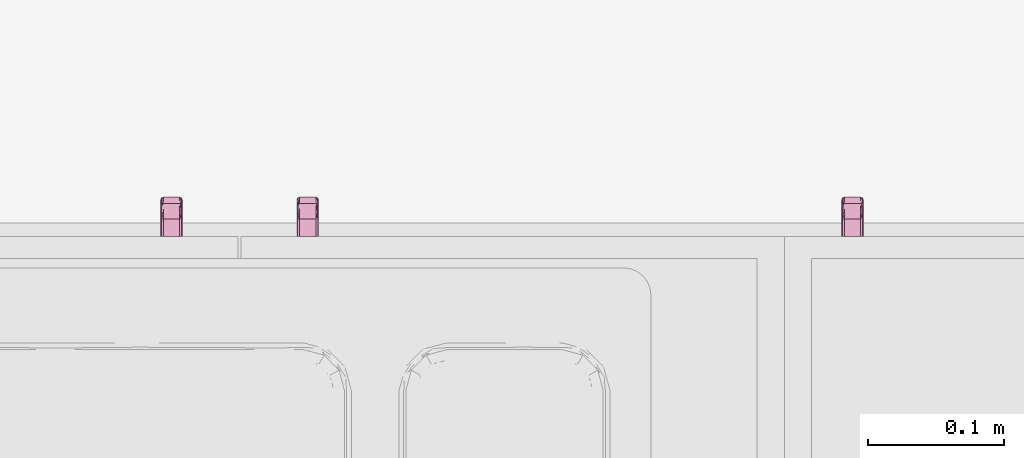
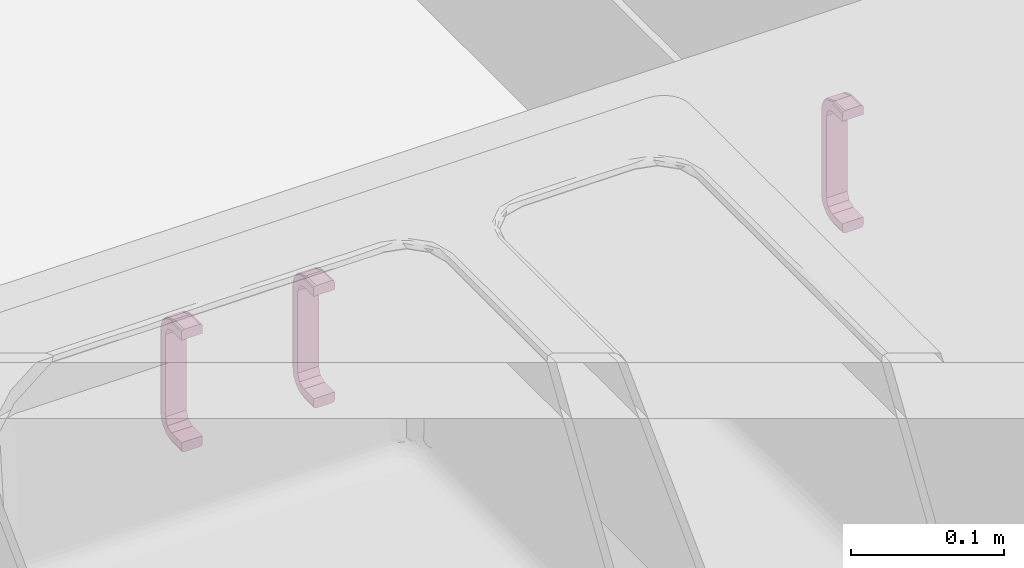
# One storey, part 47 of 65: 3 furnishings.
"""IFC2X3 building model written with IfcOpenShell, lengths in millimetres."""

from ifc_helpers import new_model, entity, si_unit, converted_unit, direction, frame, origin, place, context, subcontext, project, spatial, faceted_brep, source, transform, mapped, material, type_object, type_shapes, element, save


model = new_model("IFC2X3")

# Units and contexts
model_context = context("Model", 3, precision=0.01, world=origin(), true_north=direction((0.0, 1.0)))
body_context = subcontext(model_context, "Body", "Model", "MODEL_VIEW")
ifc_project = project(units=[si_unit("LENGTHUNIT", "METRE", prefix="MILLI"), si_unit("AREAUNIT", "SQUARE_METRE"), si_unit("VOLUMEUNIT", "CUBIC_METRE"), converted_unit("PLANEANGLEUNIT", "DEGREE", entity("IfcPlaneAngleMeasure", 0.017453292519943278), si_unit("PLANEANGLEUNIT", "RADIAN"), dimensions=[0, 0, 0, 0, 0, 0, 0])], contexts=[model_context])

# Site, building, storey, space
site_placement = place(None, origin())
site = spatial("IfcSite", under=ifc_project, at=site_placement, Name="Default", CompositionType="ELEMENT")
building_placement = place(site_placement, origin())
building = spatial("IfcBuilding", under=site, at=building_placement, CompositionType="ELEMENT")
storey_placement = place(building_placement, origin())
storey = spatial("IfcBuildingStorey", under=building, at=storey_placement, Name="Et. 1", CompositionType="ELEMENT", Elevation=0.0)
space_placement = place(storey_placement, origin())
space = spatial("IfcSpace", under=storey, at=space_placement, Name="105", CompositionType="ELEMENT", InteriorOrExteriorSpace="INTERNAL")

# Furnishings
ifc_material = material(Name="Focus - Kjøkken - Håndtak")
furniture_type = type_object("IfcFurnitureType", Name="Focus - Håndtak Skap:Håndtak skap", AssemblyPlace="NOTDEFINED", material=ifc_material)
shared_shape = source(origin(), body_context, "Body", "Brep", [
    faceted_brep([(-6.0, 0.0, 4.021099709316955), (6.0, 0.0, 4.021099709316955), (7.414213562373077, 0.0, 3.435313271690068), (8.0, 0.0, 2.021099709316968), (8.0, 0.0, -4.0210997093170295), (-8.0, 0.0, -4.0210997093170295), (-8.0, 0.0, 2.021099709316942), (-7.414213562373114, 0.0, 3.435313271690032), (-8.0, 0.0, -92.021099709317), (-8.0, 0.0, -85.97890029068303), (8.0, 0.0, -85.97890029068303), (8.0, 0.0, -92.02109970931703), (7.414213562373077, 0.0, -93.43531327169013), (6.0, 0.0, -94.02109970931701), (-6.0, 0.0, -94.02109970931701), (-7.414213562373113, 0.0, -93.43531327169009), (6.0, -13.0, 4.021099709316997), (7.414213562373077, -13.0, 3.4353132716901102), (7.707106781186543, -13.0, 2.728206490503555), (8.0, -13.0, 2.0210997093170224), (8.0, -16.60126528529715, 0.5294067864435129), (8.0, -19.75783998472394, -0.7780892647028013), (8.0, -22.914414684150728, -2.0855853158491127), (8.0, -23.941085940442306, -4.564188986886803), (8.0, -24.967757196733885, -7.042792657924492), (8.0, -25.994428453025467, -9.52139632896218), (8.0, -27.021099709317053, -12.0), (8.0, -27.021099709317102, -24.345039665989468), (8.0, -27.02109970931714, -36.69008005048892), (8.0, -27.021099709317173, -47.017560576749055), (8.0, -27.02109970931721, -57.34504038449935), (8.0, -27.021099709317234, -65.65496033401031), (8.0, -27.021099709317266, -78.0), (8.0, -25.52940678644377, -81.60126528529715), (8.0, -24.221910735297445, -84.75783998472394), (8.0, -22.914414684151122, -87.91441468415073), (8.0, -20.435811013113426, -88.9410859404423), (8.0, -17.95720734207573, -89.96775719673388), (8.0, -15.478603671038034, -90.99442845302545), (8.0, -13.0, -92.02109970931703), (8.0, -13.0, -85.97890029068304), (8.0, -18.64193450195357, -83.64193450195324), (8.0, -20.978900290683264, -78.0), (8.0, -20.978900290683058, -12.0), (8.0, -18.641934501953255, -6.358065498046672), (8.0, -13.0, -4.021099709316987), (-8.0, -13.0, -4.021099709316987), (-8.0, -13.0, -92.02109970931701), (-8.0, -16.6012653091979, -90.52940677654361), (-8.0, -19.7578399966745, -89.22191073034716), (-8.0, -22.914414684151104, -87.91441468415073), (-8.0, -23.941085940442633, -85.435811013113), (-8.0, -24.967757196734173, -82.9572073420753), (-8.0, -25.99442845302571, -80.47860367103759), (-8.0, -27.021099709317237, -78.0), (-8.0, -27.0210997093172, -65.65496055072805), (-8.0, -27.021099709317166, -55.327480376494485), (-8.0, -27.02109970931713, -45.00000020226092), (-8.0, -27.021099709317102, -34.67252002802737), (-8.0, -27.021099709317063, -24.34503985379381), (-8.0, -27.02109970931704, -12.0), (-8.0, -25.52940677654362, -8.398734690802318), (-8.0, -24.221910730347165, -5.242160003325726), (-8.0, -22.914414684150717, -2.0855853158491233), (-8.0, -20.435811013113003, -1.0589140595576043), (-8.0, -17.9572073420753, -0.032242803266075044), (-8.0, -15.478603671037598, 0.9944284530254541), (-8.0, -13.0, 2.0210997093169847), (-8.0, -18.641934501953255, -6.358065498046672), (-8.0, -20.97890029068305, -12.0), (-8.0, -20.978900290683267, -78.0), (-8.0, -18.64193450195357, -83.64193450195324), (-8.0, -13.0, -85.97890029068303), (-7.414213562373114, -13.0, 3.4353132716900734), (-6.523051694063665, -13.0, 3.8044446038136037), (-6.0, -13.0, 4.021099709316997), (7.77682804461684, -22.641402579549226, -0.588486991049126), (7.761199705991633, -19.755916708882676, 1.3575143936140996), (7.832026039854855, -25.954055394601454, -4.794062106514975), (6.0, -24.3286282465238, -0.6713717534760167), (6.7653668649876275, -25.002953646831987, -1.6197407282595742), (7.138822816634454, -22.341444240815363, 0.5752165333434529), (6.0, -20.2025305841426, 1.0377138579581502), (7.148530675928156, -17.923500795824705, 2.864246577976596), (7.108929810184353, -27.65191997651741, -6.400304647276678), (6.0, -26.037713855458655, -4.797469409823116), (6.0, -26.674863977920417, -6.335685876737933), (6.0, -27.52940678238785, -8.398734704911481), (6.0, -25.18317105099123, -2.734420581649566), (7.807346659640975, -27.454202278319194, -8.476170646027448), (7.7836039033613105, -16.529274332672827, 2.502698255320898), (6.0, -16.60126529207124, 2.529406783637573), (7.414213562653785, -25.40873190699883, -2.82000717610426), (6.873580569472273, -26.597477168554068, -3.91370423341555), (6.0, -21.496471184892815, 0.5017461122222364), (6.523051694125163, -28.804444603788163, -12.0), (6.968390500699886, -28.53877057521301, -9.3033965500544), (6.0, -27.847981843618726, -9.167842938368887), (6.0, -29.021099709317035, -12.0), (7.414213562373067, -28.43531327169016, -12.0), (6.0, -18.664314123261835, 1.67486397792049), (6.0, -25.501746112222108, -3.5035288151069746), (-6.0, -16.601265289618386, 2.529406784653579), (-6.0, -15.832157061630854, 2.847981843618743), (-7.78360391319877, -27.50269824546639, -8.470725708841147), (-7.761199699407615, -26.357514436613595, -5.244083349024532), (-7.10892981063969, -18.599695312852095, 2.651919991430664), (-6.0, -20.2025305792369, 1.0377138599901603), (-6.0, -18.664314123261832, 1.67486397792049), (-7.730939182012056, -16.04875454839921, 2.7104148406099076), (-7.744591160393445, -19.340507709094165, 1.5930015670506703), (-6.76536686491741, -21.540484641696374, 1.3746327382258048), (-6.0, -22.265579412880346, 0.183171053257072), (-6.0, -21.496471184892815, 0.5017461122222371), (-7.148530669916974, -27.864246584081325, -7.076499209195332), (-7.138822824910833, -25.57521654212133, -2.6585557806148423), (-6.0, -26.037713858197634, -4.7974694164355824), (-7.414213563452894, -22.17999279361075, 0.4087319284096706), (-7.776828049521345, -24.411513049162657, -2.3585974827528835), (-6.853012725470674, -23.855367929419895, -0.47819170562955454), (-7.414213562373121, -28.43531327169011, -12.0), (-6.0, -27.529406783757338, -8.398734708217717), (-6.0, -25.501746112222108, -3.5035288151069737), (-6.0, -24.3286282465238, -0.6713717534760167), (-7.7071067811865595, -27.728206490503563, -12.0), (-6.96839049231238, -15.696603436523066, 3.5387705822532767), (-6.0, -29.021099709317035, -12.0), (-6.0, -26.67486397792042, -6.33568587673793), (7.414213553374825, -28.435313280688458, -29.508780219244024), (6.0, -29.021099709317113, -34.67252039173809), (7.450985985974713, -28.39755881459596, -41.853819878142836), (7.41421354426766, -28.435313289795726, -61.49999992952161), (6.0, -29.02109970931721, -65.65496032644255), (7.4142135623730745, -28.435313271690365, -78.0), (6.0, -29.02109970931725, -78.0), (6.0, -29.02109970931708, -24.345039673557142), (7.707106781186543, -27.728206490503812, -78.0), (6.0, -29.02109970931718, -55.3274796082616), (6.0, -29.021099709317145, -45.0), (-7.414213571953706, -28.435313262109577, -29.50878047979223), (-6.0, -29.02109970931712, -36.69007988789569), (-6.0, -29.021099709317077, -24.345040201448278), (-7.414213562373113, -28.43531327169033, -78.0), (-7.414213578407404, -28.435313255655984, -61.499999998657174), (-6.0, -29.021099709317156, -47.017559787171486), (-7.376459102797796, -28.472085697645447, -41.85382016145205), (-6.0, -29.021099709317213, -65.6549603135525), (-6.523051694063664, -28.80444460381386, -78.0), (-6.0, -29.02109970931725, -78.0), (-6.0, -29.021099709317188, -57.34504020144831), (7.776828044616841, -24.411513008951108, -87.64140257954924), (7.7611997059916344, -26.357514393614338, -84.7559167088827), (7.8320260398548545, -20.20593789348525, -90.95405539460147), (6.0, -24.328628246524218, -89.32862824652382), (6.0, -22.265579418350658, -90.18317105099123), (6.7653668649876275, -23.38025927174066, -90.002953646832), (6.0, -26.037713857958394, -85.2025305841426), (7.138822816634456, -25.575216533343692, -87.34144424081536), (7.148530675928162, -27.864246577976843, -82.92350079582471), (7.108929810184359, -18.599695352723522, -92.65191997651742), (6.0, -20.202530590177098, -91.03771385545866), (6.0, -18.66431412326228, -91.67486397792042), (6.0, -16.601265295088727, -92.52940678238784), (6.873580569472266, -21.086295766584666, -91.5974771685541), (6.0, -21.49647118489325, -90.50174611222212), (7.8073466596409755, -16.5238293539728, -92.45420227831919), (7.78360390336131, -27.50269825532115, -81.52927433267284), (6.0, -27.529406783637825, -81.60126529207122), (7.414213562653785, -22.179992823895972, -90.40873190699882), (6.0, -25.50174611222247, -86.49647118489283), (6.523051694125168, -13.0, -93.80444460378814), (6.968390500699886, -15.696603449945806, -93.53877057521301), (6.0, -15.832157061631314, -92.84798184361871), (6.0, -13.0, -94.02109970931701), (7.414213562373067, -13.0, -93.43531327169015), (6.0, -26.674863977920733, -83.66431412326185), (-6.0, -27.529406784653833, -81.60126528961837), (-6.0, -27.84798184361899, -80.83215706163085), (-7.7836039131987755, -16.529274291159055, -92.50269824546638), (-7.7611996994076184, -19.755916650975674, -91.3575144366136), (-7.108929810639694, -27.651919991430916, -83.59969531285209), (-6.0, -26.03771385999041, -85.20253057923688), (-6.0, -26.67486397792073, -83.66431412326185), (-7.730939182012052, -27.71041484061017, -81.04875454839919), (-7.74459116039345, -26.593001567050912, -84.34050770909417), (-6.76536686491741, -26.374632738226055, -86.54048464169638), (-6.0, -25.18317105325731, -87.26557941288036), (-6.0, -25.50174611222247, -86.49647118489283), (-7.148530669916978, -17.923500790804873, -92.86424658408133), (-7.138822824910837, -22.341444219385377, -90.57521654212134), (-6.0, -20.20253058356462, -91.03771385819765), (-7.414213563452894, -25.40873192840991, -87.17999279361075), (-7.776828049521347, -22.64140251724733, -89.41151304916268), (-6.853012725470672, -24.52180829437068, -88.85536792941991), (-7.41421356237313, -13.0, -93.43531327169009), (-6.0, -16.601265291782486, -92.52940678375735), (-6.0, -21.49647118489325, -90.50174611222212), (-6.0, -24.328628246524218, -89.32862824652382), (-7.707106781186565, -13.0, -92.72820649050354), (-6.96839049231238, -28.538770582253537, -80.69660343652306), (-6.0, -13.0, -94.02109970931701), (-6.0, -18.66431412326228, -91.67486397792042)], [[[0, 1, 2, 3, 4, 5, 6, 7]], [[8, 9, 10, 11, 12, 13, 14, 15]], [[16, 17, 2, 1]], [[2, 17, 18, 19, 3]], [[4, 3, 19, 20, 21, 22, 23, 24, 25, 26, 27, 28, 29, 30, 31, 32, 33, 34, 35, 36, 37, 38, 39, 11, 10, 40, 41, 42, 43, 44, 45]], [[5, 4, 45, 46]], [[9, 8, 47, 48, 49, 50, 51, 52, 53, 54, 55, 56, 57, 58, 59, 60, 61, 62, 63, 64, 65, 66, 67, 6, 5, 46, 68, 69, 70, 71, 72]], [[67, 73, 7, 6]], [[7, 73, 74, 75, 0]], [[1, 0, 75, 16]], [[76, 21, 77]], [[78, 24, 23]], [[79, 80, 81]], [[82, 81, 83]], [[84, 85, 86, 87]], [[80, 79, 88]], [[89, 24, 78]], [[90, 77, 20]], [[17, 91, 83]], [[92, 93, 84]], [[81, 82, 94, 79]], [[87, 95, 96]], [[77, 83, 81]], [[23, 76, 78]], [[93, 92, 80]], [[22, 76, 23]], [[90, 17, 83]], [[19, 18, 17, 90]], [[95, 87, 97, 98]], [[99, 26, 89]], [[76, 77, 81]], [[20, 19, 90]], [[92, 76, 81]], [[21, 76, 22]], [[21, 20, 77]], [[83, 77, 90]], [[91, 17, 16]], [[83, 91, 100, 82]], [[93, 88, 101, 85]], [[81, 80, 92]], [[88, 93, 80]], [[85, 84, 93]], [[76, 92, 78]], [[92, 84, 78]], [[89, 78, 84]], [[84, 96, 89]], [[89, 26, 25, 24]], [[96, 95, 99]], [[89, 96, 99]], [[87, 96, 84]], [[44, 68, 46, 45]], [[43, 69, 68, 44]], [[74, 102, 103, 75]], [[104, 105, 61]], [[106, 107, 108, 102]], [[109, 110, 106]], [[111, 112, 113, 107]], [[105, 114, 115]], [[115, 114, 116]], [[110, 64, 117]], [[118, 62, 105]], [[106, 110, 117]], [[117, 119, 111]], [[120, 121, 114]], [[115, 116, 122, 123]], [[112, 111, 119]], [[119, 117, 118]], [[63, 118, 64]], [[104, 120, 114]], [[60, 124, 120, 104]], [[109, 125, 73]], [[125, 109, 106]], [[118, 105, 115]], [[61, 60, 104]], [[118, 115, 119]], [[62, 118, 63]], [[62, 61, 105]], [[114, 105, 104]], [[121, 120, 126]], [[114, 121, 127, 116]], [[107, 106, 111]], [[106, 117, 111]], [[115, 123, 119]], [[112, 119, 123]], [[64, 118, 117]], [[125, 74, 73]], [[102, 74, 125]], [[102, 125, 106]], [[73, 67, 109]], [[66, 65, 64, 110]], [[110, 109, 66]], [[109, 67, 66]], [[122, 116, 127, 121, 126, 98, 97, 87, 86, 85, 101, 88, 79, 123]], [[79, 94, 82, 100, 91, 16, 75, 103, 102, 108, 107, 113, 112, 123]], [[128, 28, 27, 99]], [[129, 130, 128]], [[29, 130, 131]], [[132, 133, 131]], [[132, 134, 133]], [[135, 99, 95, 98]], [[128, 99, 135, 129]], [[30, 29, 131, 31]], [[31, 133, 136, 32]], [[27, 26, 99]], [[31, 131, 133]], [[130, 137, 131]], [[28, 130, 29]], [[129, 138, 137, 130]], [[28, 128, 130]], [[137, 132, 131]], [[69, 43, 42, 70]], [[139, 140, 141, 120]], [[55, 142, 143]], [[144, 145, 143]], [[146, 142, 147, 148]], [[141, 126, 120]], [[55, 54, 142]], [[59, 120, 124, 60]], [[139, 120, 59, 58]], [[146, 149, 144, 143]], [[58, 145, 139]], [[146, 143, 142]], [[145, 56, 143]], [[140, 145, 144]], [[58, 57, 56, 145]], [[140, 139, 145]], [[56, 55, 143]], [[98, 126, 141, 140, 144, 149, 146, 148, 134, 132, 137, 138, 129, 135]], [[150, 34, 151]], [[152, 37, 36]], [[153, 154, 155]], [[156, 157, 158]], [[159, 160, 161, 162]], [[163, 154, 164, 160]], [[165, 37, 152]], [[166, 151, 33]], [[133, 167, 158]], [[168, 163, 159]], [[157, 156, 169, 153]], [[162, 170, 171]], [[151, 158, 157]], [[36, 150, 152]], [[163, 168, 155]], [[35, 150, 36]], [[166, 133, 158]], [[32, 136, 133, 166]], [[170, 162, 172, 173]], [[174, 39, 165]], [[150, 151, 157]], [[33, 32, 166]], [[168, 150, 157]], [[34, 150, 35]], [[34, 33, 151]], [[158, 151, 166]], [[167, 133, 134]], [[158, 167, 175, 156]], [[168, 157, 155]], [[157, 153, 155]], [[154, 163, 155]], [[160, 159, 163]], [[150, 168, 152]], [[168, 159, 152]], [[165, 152, 159]], [[159, 171, 165]], [[165, 39, 38, 37]], [[171, 170, 174]], [[165, 171, 174]], [[162, 171, 159]], [[41, 71, 70, 42]], [[40, 72, 71, 41]], [[147, 176, 177, 148]], [[178, 179, 48]], [[180, 181, 182, 176]], [[183, 184, 180]], [[185, 186, 187, 181]], [[179, 188, 189]], [[189, 188, 190]], [[184, 51, 191]], [[192, 49, 179]], [[180, 184, 191]], [[191, 193, 185]], [[194, 195, 188]], [[189, 190, 196, 197]], [[186, 185, 193]], [[193, 191, 192]], [[50, 192, 51]], [[178, 194, 188]], [[47, 198, 194, 178]], [[183, 199, 142]], [[199, 183, 180]], [[192, 179, 189]], [[48, 47, 178]], [[192, 189, 193]], [[49, 192, 50]], [[49, 48, 179]], [[188, 179, 178]], [[195, 194, 200]], [[188, 195, 201, 190]], [[181, 180, 185]], [[180, 191, 185]], [[189, 197, 193]], [[186, 193, 197]], [[51, 192, 191]], [[199, 147, 142]], [[176, 147, 199]], [[176, 199, 180]], [[142, 54, 183]], [[53, 52, 51, 184]], [[184, 183, 53]], [[183, 54, 53]], [[196, 190, 201, 195, 200, 173, 172, 162, 161, 160, 164, 154, 153, 197]], [[153, 169, 156, 175, 167, 134, 148, 177, 176, 182, 181, 187, 186, 197]], [[13, 12, 174, 170, 173]], [[174, 12, 11, 39]], [[72, 40, 10, 9]], [[8, 15, 194, 198, 47]], [[194, 15, 14, 200]], [[173, 200, 14, 13]]]),
])
type_shapes(furniture_type, [shared_shape])
for number, where, z_axis, x_axis, name in (
    (1, (20582.009586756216, 11344.180957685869, 820.0), (0.0, 0.0, 1.0), (-1.0, 0.0, 0.0), "Focus - Håndtak Skap:Håndtak skap"),
    (2, (20682.009586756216, 11344.180957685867, 820.0), (0.0, 0.0, 1.0), (-1.0, 0.0, 0.0), "Focus - Håndtak Skap:Håndtak skap"),
    (3, (21082.009586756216, 11344.18095768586, 820.0), (0.0, 0.0, 1.0), (-1.0, 0.0, 0.0), "Focus - Håndtak Skap:Håndtak skap"),
):
    element("IfcFurnishingElement", number, at=place(space_placement, frame(where, z_axis=z_axis, x_axis=x_axis)), inside=space, type_object=furniture_type, material=ifc_material, Name=name, context=body_context, shape_type="MappedRepresentation", body=[
        mapped(shared_shape, transform((0.0, 0.0, 0.0), scale=1.0)),
    ])

save(model, "model.ifc")
